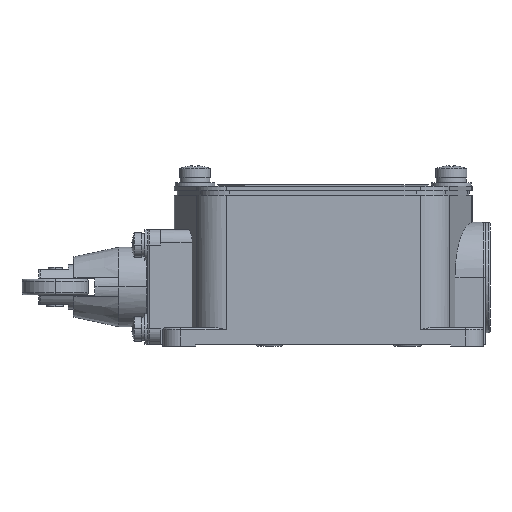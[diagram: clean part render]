
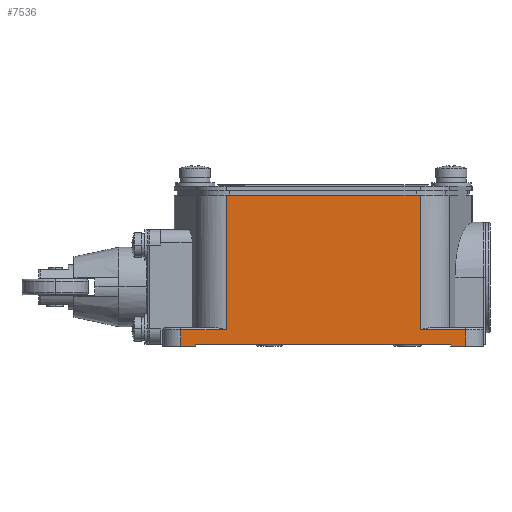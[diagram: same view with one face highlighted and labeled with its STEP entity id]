
A CAD part, front view. The second image highlights one B-rep face of the part: STEP entity #7536.
In plain terms, the highlighted planar face has unit normal (0, -1, 0).
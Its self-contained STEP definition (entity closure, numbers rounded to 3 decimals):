
#739=DIRECTION('',(1.,0.,0.));
#740=VECTOR('',#739,57.7);
#741=CARTESIAN_POINT('',(-28.85,-21.1,0.));
#742=LINE('',#741,#740);
#1398=DIRECTION('',(1.,0.,0.));
#1399=VECTOR('',#1398,10.326);
#1400=CARTESIAN_POINT('',(21.924,-21.1,3.3));
#1401=LINE('',#1400,#1399);
#1402=DIRECTION('',(0.,0.,1.));
#1403=VECTOR('',#1402,3.7);
#1404=CARTESIAN_POINT('',(32.25,-21.1,-0.4));
#1405=LINE('',#1404,#1403);
#1406=DIRECTION('',(0.,0.,-1.));
#1407=VECTOR('',#1406,0.4);
#1408=CARTESIAN_POINT('',(-28.85,-21.1,0.));
#1409=LINE('',#1408,#1407);
#1410=DIRECTION('',(0.,0.,-1.));
#1411=VECTOR('',#1410,3.7);
#1412=CARTESIAN_POINT('',(-32.25,-21.1,3.3));
#1413=LINE('',#1412,#1411);
#1414=DIRECTION('',(1.,0.,0.));
#1415=VECTOR('',#1414,10.326);
#1416=CARTESIAN_POINT('',(-32.25,-21.1,3.3));
#1417=LINE('',#1416,#1415);
#1445=DIRECTION('',(-1.,0.,0.));
#1446=VECTOR('',#1445,3.4);
#1447=CARTESIAN_POINT('',(32.25,-21.1,-0.4));
#1448=LINE('',#1447,#1446);
#1467=DIRECTION('',(0.,0.,-1.));
#1468=VECTOR('',#1467,0.4);
#1469=CARTESIAN_POINT('',(28.85,-21.1,0.));
#1470=LINE('',#1469,#1468);
#1570=DIRECTION('',(-1.,0.,0.));
#1571=VECTOR('',#1570,3.4);
#1572=CARTESIAN_POINT('',(-28.85,-21.1,-0.4));
#1573=LINE('',#1572,#1571);
#1609=DIRECTION('',(0.,0.,-1.));
#1610=VECTOR('',#1609,30.5);
#1611=CARTESIAN_POINT('',(-21.924,-21.1,33.8));
#1612=LINE('',#1611,#1610);
#1641=DIRECTION('',(1.,0.,0.));
#1642=VECTOR('',#1641,43.849);
#1643=CARTESIAN_POINT('',(-21.924,-21.1,33.8));
#1644=LINE('',#1643,#1642);
#1823=DIRECTION('',(0.,0.,1.));
#1824=VECTOR('',#1823,30.5);
#1825=CARTESIAN_POINT('',(21.924,-21.1,3.3));
#1826=LINE('',#1825,#1824);
#4501=CARTESIAN_POINT('',(28.85,-21.1,-0.4));
#4503=VERTEX_POINT('',#4501);
#4515=CARTESIAN_POINT('',(-28.85,-21.1,-0.4));
#4516=VERTEX_POINT('',#4515);
#4533=CARTESIAN_POINT('',(28.85,-21.1,0.));
#4535=VERTEX_POINT('',#4533);
#4547=CARTESIAN_POINT('',(-28.85,-21.1,0.));
#4548=VERTEX_POINT('',#4547);
#4605=CARTESIAN_POINT('',(-21.924,-21.1,33.8));
#4606=VERTEX_POINT('',#4605);
#4607=CARTESIAN_POINT('',(21.924,-21.1,33.8));
#4609=VERTEX_POINT('',#4607);
#4614=CARTESIAN_POINT('',(32.25,-21.1,-0.4));
#4616=VERTEX_POINT('',#4614);
#4625=CARTESIAN_POINT('',(-32.25,-21.1,-0.4));
#4627=VERTEX_POINT('',#4625);
#4756=CARTESIAN_POINT('',(32.25,-21.1,3.3));
#4757=VERTEX_POINT('',#4756);
#4760=CARTESIAN_POINT('',(21.924,-21.1,3.3));
#4761=VERTEX_POINT('',#4760);
#4790=CARTESIAN_POINT('',(-32.25,-21.1,3.3));
#4791=CARTESIAN_POINT('',(-21.924,-21.1,3.3));
#4792=VERTEX_POINT('',#4790);
#4793=VERTEX_POINT('',#4791);
#7507=CARTESIAN_POINT('',(-36.25,-21.1,0.));
#7508=DIRECTION('',(0.,-1.,0.));
#7509=DIRECTION('',(1.,0.,0.));
#7510=AXIS2_PLACEMENT_3D('',#7507,#7508,#7509);
#7511=PLANE('',#7510);
#7512=ORIENTED_EDGE('',*,*,#7500,.T.);
#7514=ORIENTED_EDGE('',*,*,#7513,.F.);
#7516=ORIENTED_EDGE('',*,*,#7515,.T.);
#7518=ORIENTED_EDGE('',*,*,#7517,.F.);
#7519=ORIENTED_EDGE('',*,*,#6696,.F.);
#7521=ORIENTED_EDGE('',*,*,#7520,.T.);
#7523=ORIENTED_EDGE('',*,*,#7522,.T.);
#7525=ORIENTED_EDGE('',*,*,#7524,.F.);
#7527=ORIENTED_EDGE('',*,*,#7526,.T.);
#7529=ORIENTED_EDGE('',*,*,#7528,.F.);
#7531=ORIENTED_EDGE('',*,*,#7530,.T.);
#7533=ORIENTED_EDGE('',*,*,#7532,.F.);
#7534=EDGE_LOOP('',(#7512,#7514,#7516,#7518,#7519,#7521,#7523,#7525,#7527,#7529,
#7531,#7533));
#7535=FACE_OUTER_BOUND('',#7534,.F.);
#7536=ADVANCED_FACE('',(#7535),#7511,.T.);
#6696=EDGE_CURVE('',#4548,#4535,#742,.T.);
#7500=EDGE_CURVE('',#4761,#4757,#1401,.T.);
#7513=EDGE_CURVE('',#4616,#4757,#1405,.T.);
#7515=EDGE_CURVE('',#4616,#4503,#1448,.T.);
#7517=EDGE_CURVE('',#4535,#4503,#1470,.T.);
#7520=EDGE_CURVE('',#4548,#4516,#1409,.T.);
#7522=EDGE_CURVE('',#4516,#4627,#1573,.T.);
#7524=EDGE_CURVE('',#4792,#4627,#1413,.T.);
#7526=EDGE_CURVE('',#4792,#4793,#1417,.T.);
#7528=EDGE_CURVE('',#4606,#4793,#1612,.T.);
#7530=EDGE_CURVE('',#4606,#4609,#1644,.T.);
#7532=EDGE_CURVE('',#4761,#4609,#1826,.T.);
